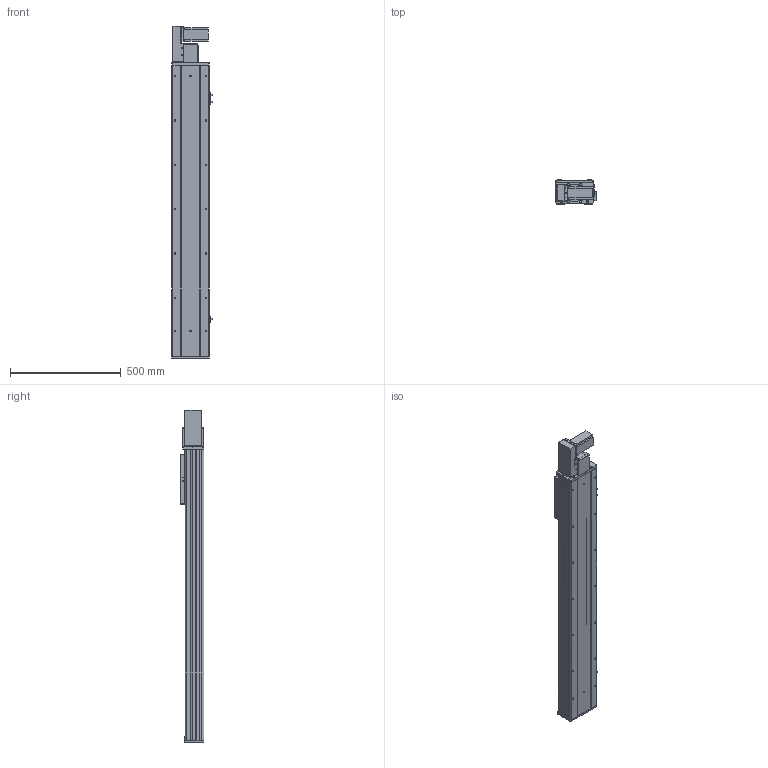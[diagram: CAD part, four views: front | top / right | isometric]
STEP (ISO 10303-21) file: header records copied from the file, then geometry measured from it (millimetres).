
FILE_DESCRIPTION (( 'STEP AP203' ), '1' );
FILE_NAME ('Y170CB-D105-S1000-BL-P400W.STEP', '2020-02-20T01:16:18', ( '微软用户' ), ( '微软中国' ), 'SwSTEP 2.0', 'SolidWorks 2017', '' );
FILE_SCHEMA (( 'CONFIG_CONTROL_DESIGN' ));
Length unit declared in the file: millimetre
Products named in the file (18): 70CB-耜裔啣-; Y170CB-D105-S1000-BL-P400W; 70C--詩湍揤踡え-; B-源倛裔啣; 70CB--耜裔; 17B-耜蚾蟀諉啣----; 70C-雄赽釱-奻-; 0B-萇儂楊擘啣; 0C--雄赽釱俋欶-170; san松下电机400不带刹车----; Y100-135俋离換覜ん--; 70CB-詩湍--; Y70俋欶BR----; Y170CB-陔俋离換覜結え---; 70CB-掛极-; 70B喘謫眊----; --70CB --喘謫眊楊擘啣-; Y1埴倛裔
Assembly tree (21 placements, depth 2):
  Y170CB-D105-S1000-BL-P400W
    B-源倛裔啣
    17B-耜蚾蟀諉啣----
    0B-萇儂楊擘啣
    san松下电机400不带刹车----
    Y70俋欶BR----
    70CB-掛极-
    --70CB --喘謫眊楊擘啣-
    70CB-耜裔啣-  x2
    70C--詩湍揤踡え-  x2
    70CB--耜裔
    70C-雄赽釱-奻-
    0C--雄赽釱俋欶-170
    70CB-詩湍--
    Y100-135俋离換覜ん--  x3
    Y170CB-陔俋离換覜結え---
    70B喘謫眊----
    Y1埴倛裔
Bounding box: 183.5 x 107 x 1497 mm (x, y, z)
Volume: 6537639.2 mm3; surface area: 2341172.8 mm2
Topology: 21 solids, 21 shells, 1007 faces, 2693 edges, 1786 vertices
Faces by surface type: cylinder 519, plane 464, cone 24
Entity records: 32028 total; most frequent: CARTESIAN_POINT 5856, DIRECTION 5206, ORIENTED_EDGE 4868, EDGE_CURVE 2434, AXIS2_PLACEMENT_3D 1904, VERTEX_POINT 1616, LINE 1398, VECTOR 1398
